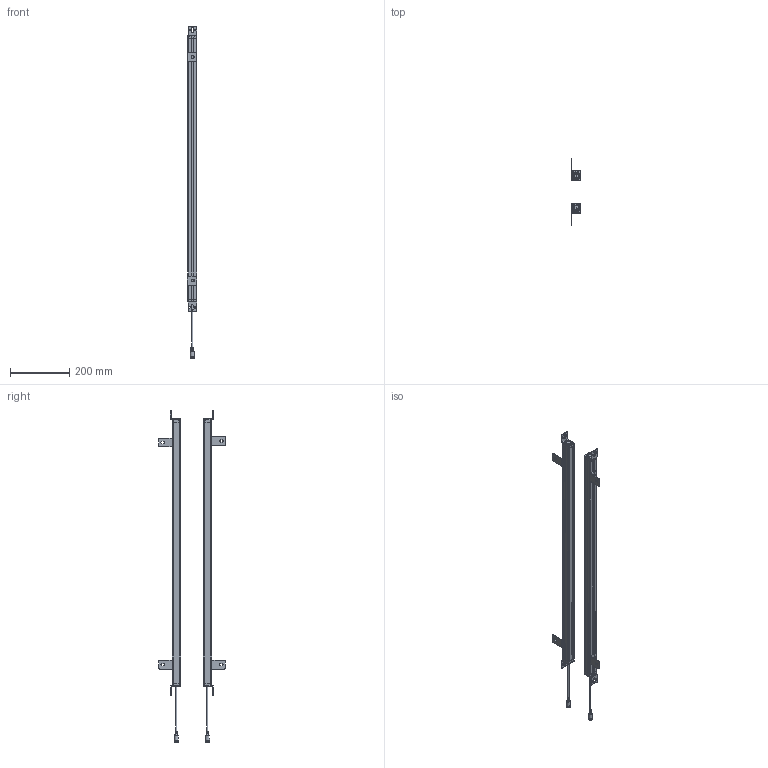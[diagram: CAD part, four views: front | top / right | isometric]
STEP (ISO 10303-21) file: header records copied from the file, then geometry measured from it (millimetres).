
FILE_DESCRIPTION(/* description */ (''),/* implementation_level */ '2;1');
FILE_NAME(/* name */ '2240（29x30）_stp_stp.stp',/* time_stamp */ '2023-04-27T16:20:25+08:00',/* author */ (''),/* organization */ (''),/* preprocessor_version */ 'ST-DEVELOPER v16.7',/* originating_system */ 'SIEMENS PLM Software NX 12.0',/* authorisation */ '');
FILE_SCHEMA (('AUTOMOTIVE_DESIGN { 1 0 10303 214 3 1 1 1 }'));
Products named in the file (1): 0840（29x30）_stp_stp
Bounding box: 32.03 x 223.99 x 1121 mm (x, y, z)
Volume: 572821.6 mm3; surface area: 591746.4 mm2
Topology: 34 solids, 34 shells, 1610 faces, 4267 edges, 2771 vertices
Faces by surface type: plane 750, cylinder 648, bspline 88, sphere 36, cone 36, torus 32, extrusion 20
Full cylindrical faces by diameter (mm): 1.533 x6, 4.4 x4, 9 x2, 12.5 x2
Entity records: 56427 total; most frequent: CARTESIAN_POINT 16064, DIRECTION 8330, ORIENTED_EDGE 8324, EDGE_CURVE 4162, AXIS2_PLACEMENT_3D 2918, VERTEX_POINT 2696, VECTOR 2494, LINE 2474
